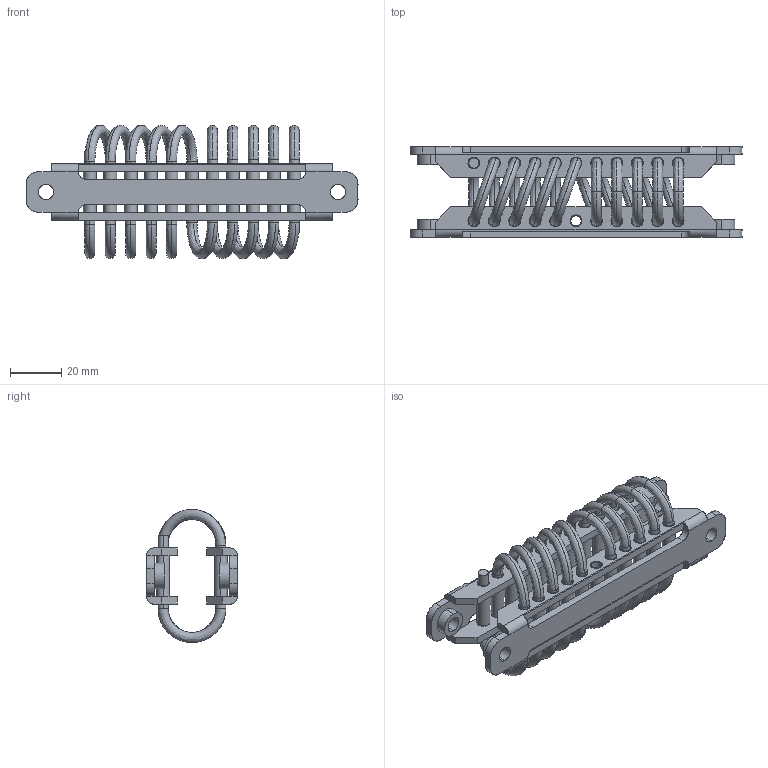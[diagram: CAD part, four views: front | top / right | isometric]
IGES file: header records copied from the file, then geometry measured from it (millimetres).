
Start section: SolidWorks IGES file using analytic representation for surfaces
Bounding box: 130 x 35.6 x 52.18 mm (x, y, z)
Surface area: 39844.6 mm2 (no closed solid volume)
Topology: 0 solids, 0 shells, 286 faces, 7744 edges, 7744 vertices
Faces by surface type: bspline 160, revolution 126
